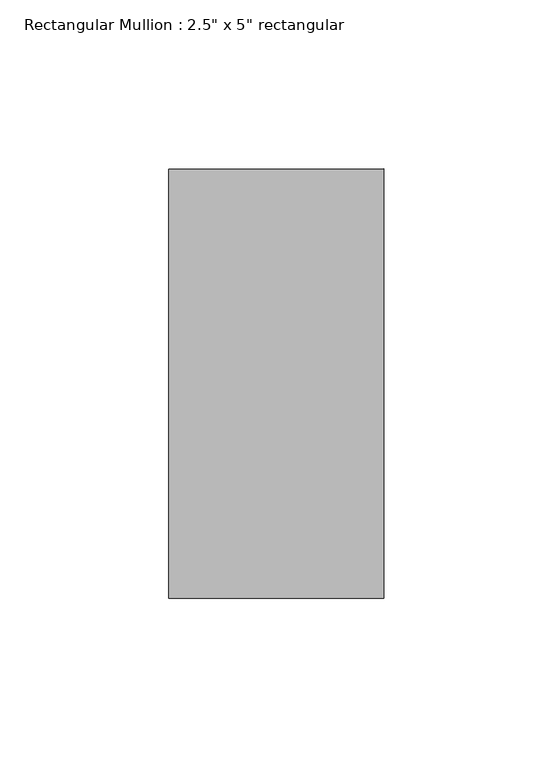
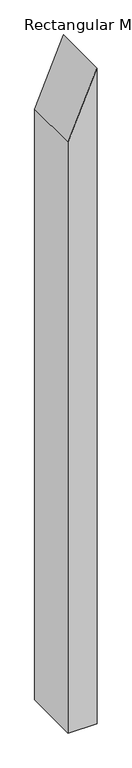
"""IFC4 building model written with IfcOpenShell, lengths in millimetres: member geometry."""

from ifc_helpers import new_model, si_unit, frame, origin, place, context, project, spatial, polyline, outline, extrude, source, transform, mapped, element, save


def member_1078ffe1(model_context):
    return source(origin(), model_context, "Body", "SweptSolid", [
        extrude(outline(polyline([(0.0, 0.0), (-150.0761281, -63.5), (-1524.0, -63.5), (-1524.0, 0.0), (0.0, 0.0)])), frame((0.0, -63.5, 0.0), z_axis=(0.0, 1.0, 0.0), x_axis=(0.0, 0.0, 1.0)), (0.0, 0.0, 1.0), 127.0),
    ])


if __name__ == "__main__":
    model = new_model("IFC4")
    model_context = context("Model", 3, world=origin())
    ifc_project = project(units=[si_unit("LENGTHUNIT", "METRE", prefix="MILLI")], contexts=[model_context])
    site = spatial("IfcSite", under=ifc_project)
    building = spatial("IfcBuilding", under=site)
    placement = place(None, origin())
    member_shape = member_1078ffe1(model_context)
    element("IfcMember", 1, ObjectType="Rectangular Mullion : 2.5\" x 5\" rectangular", at=placement, inside=building, context=model_context, shape_type="MappedRepresentation", body=[
        mapped(member_shape, transform((0.0, 0.0, 0.0), x_axis=(1.0, 0.0, 0.0), y_axis=(0.0, 1.0, 0.0), z_axis=(0.0, 0.0, 1.0))),
    ])
    save(model, "model.ifc")
